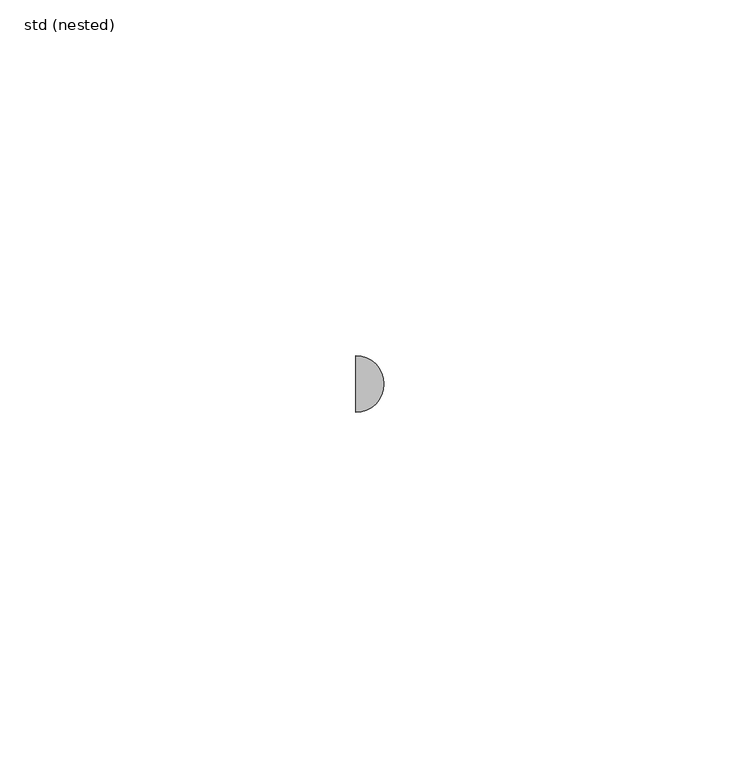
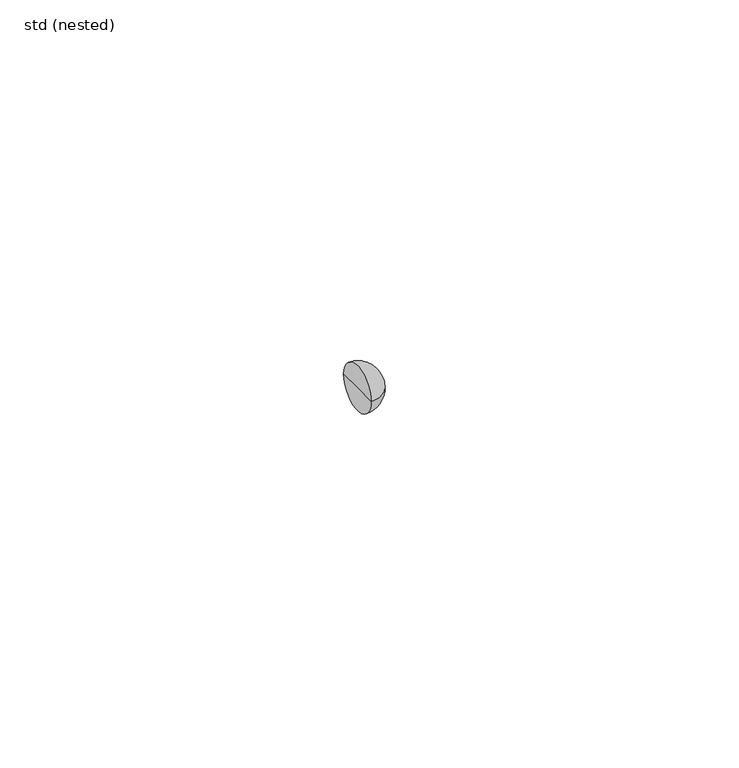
"""IFC4 building model written with IfcOpenShell, lengths in millimetres: pipe fitting geometry, ZZZ_do not use_PIF_ST_UN_ACO pipe multireducer_ACO : std (nested)."""

import ifcopenshell
import ifcopenshell.guid

model = None  # the IFC model being written
_history = None  # IfcOwnerHistory: only IFC2X3 demands one
_inside = {}  # id of a spatial element -> (the spatial element, [elements in it])
_under = {}  # id of a project, library or spatial element -> (it, [spatial elements below it])
_declared = {}  # id of a project -> (the project, [libraries it declares])
_typed = {}  # id of a type object -> (the type object, [elements of that type])
_made_of = {}  # id of a material, layer set ... -> (it, [elements and type objects made of it])


def new_model(schema):
    """Start an empty IFC model of exactly this schema.

    Asked for "IFC4X3", IfcOpenShell would pick the latest addendum, in which some entities
    have other attributes; the version numbers below select the first issue.
    IFC2X3 requires an IfcOwnerHistory on every rooted entity: one is made here for all.
    """
    global model, _history
    if schema == "IFC4X3":
        model = ifcopenshell.file(schema_version=(4, 3, 0, 0))
    else:
        model = ifcopenshell.file(schema=schema)
    _inside.clear()
    _under.clear()
    _declared.clear()
    _typed.clear()
    _made_of.clear()
    _history = None
    if model.schema == "IFC2X3":
        org = make("IfcOrganization", Name="unknown")
        user = make(
            "IfcPersonAndOrganization",
            ThePerson=make("IfcPerson", FamilyName="unknown"),
            TheOrganization=org,
        )
        app = make(
            "IfcApplication",
            ApplicationDeveloper=org,
            Version="unknown",
            ApplicationFullName="unknown",
            ApplicationIdentifier="unknown",
        )
        _history = make(
            "IfcOwnerHistory",
            OwningUser=user,
            OwningApplication=app,
            ChangeAction="ADDED",
            CreationDate=0,
        )
    return model


def make(cls, **values):
    """One entity of the class cls with the attributes given. An attribute that is None is left unset."""
    return model.create_entity(
        cls, **{name: value for name, value in values.items() if value is not None}
    )


def rooted(cls, **values):
    """An entity with a GlobalId (a new one), such as an element, a storey or a relation."""
    return make(cls, GlobalId=ifcopenshell.guid.new(), OwnerHistory=_history, **values)


def si_unit(unit_type, name, prefix=None):
    """IfcSIUnit, for example si_unit("LENGTHUNIT", "METRE", prefix="MILLI")."""
    return make("IfcSIUnit", UnitType=unit_type, Prefix=prefix, Name=name)


def assignment(units):
    """IfcUnitAssignment: the units of a project."""
    return None if units is None else make("IfcUnitAssignment", Units=units)


def point(xyz):
    """IfcCartesianPoint."""
    return None if xyz is None else make("IfcCartesianPoint", Coordinates=xyz)


def direction(xyz):
    """IfcDirection."""
    return None if xyz is None else make("IfcDirection", DirectionRatios=xyz)


def frame(location, z_axis=None, x_axis=None):
    """IfcAxis2Placement3D, a coordinate frame: its origin and axes. An axis left out is left unset."""
    return make(
        "IfcAxis2Placement3D",
        Location=point(location),
        Axis=direction(z_axis),
        RefDirection=direction(x_axis),
    )


def origin():
    """The frame at (0, 0, 0) with its axes left unset."""
    return frame((0.0, 0.0, 0.0))


def place(relative_to, where):
    """IfcLocalPlacement: puts the frame where relative to a parent placement (None: the world)."""
    return make(
        "IfcLocalPlacement", PlacementRelTo=relative_to, RelativePlacement=where
    )


def context(
    kind, dimensions, precision=None, world=None, true_north=None, identifier=None
):
    """IfcGeometricRepresentationContext, for example the 3D "Model" context."""
    return make(
        "IfcGeometricRepresentationContext",
        ContextIdentifier=identifier,
        ContextType=kind,
        CoordinateSpaceDimension=dimensions,
        Precision=precision,
        WorldCoordinateSystem=world,
        TrueNorth=true_north,
    )


def project(units=None, contexts=None):
    """IfcProject with its units and contexts."""
    return rooted(
        "IfcProject",
        Name="project",
        RepresentationContexts=contexts,
        UnitsInContext=assignment(units),
    )


def spatial(cls, under=None, at=None, **own):
    """A site, building, storey or space (cls), placed at a placement, below another one or the project."""
    s = rooted(cls, ObjectPlacement=at, **own)
    if under is not None:
        _under.setdefault(under.id(), (under, []))[1].append(s)
    return s


def circle_curve(where, radius):
    """IfcCircle in the frame where."""
    return make("IfcCircle", Position=where, Radius=radius)


def ellipse_curve(where, semi_axis1, semi_axis2):
    """IfcEllipse in the frame where."""
    return make(
        "IfcEllipse", Position=where, SemiAxis1=semi_axis1, SemiAxis2=semi_axis2
    )


def trimmed(basis, trim1, trim2, sense, master):
    """IfcTrimmedCurve: the piece of a basis curve between two trims."""
    return make(
        "IfcTrimmedCurve",
        BasisCurve=basis,
        Trim1=trim1,
        Trim2=trim2,
        SenseAgreement=sense,
        MasterRepresentation=master,
    )


def shape(context_of_items, identifier, shape_type, items):
    """IfcShapeRepresentation: the items that make up one representation, for example the "Body"."""
    return make(
        "IfcShapeRepresentation",
        ContextOfItems=context_of_items,
        RepresentationIdentifier=identifier,
        RepresentationType=shape_type,
        Items=items,
    )


def source(mapping_origin, context_of_items, identifier, shape_type, items):
    """IfcRepresentationMap: a shape defined once, which mapped items show again and again."""
    return make(
        "IfcRepresentationMap",
        MappingOrigin=mapping_origin,
        MappedRepresentation=shape(context_of_items, identifier, shape_type, items),
    )


def transform(
    local_origin,
    x_axis=None,
    y_axis=None,
    z_axis=None,
    scale=None,
    scale2=None,
    scale3=None,
    uniform=True,
):
    """IfcCartesianTransformationOperator3D, or its non-uniform kind. x_axis, y_axis, z_axis: its Axis1, 2, 3."""
    if uniform:
        return make(
            "IfcCartesianTransformationOperator3D",
            Axis1=direction(x_axis),
            Axis2=direction(y_axis),
            LocalOrigin=point(local_origin),
            Scale=scale,
            Axis3=direction(z_axis),
        )
    return make(
        "IfcCartesianTransformationOperator3DnonUniform",
        Axis1=direction(x_axis),
        Axis2=direction(y_axis),
        LocalOrigin=point(local_origin),
        Scale=scale,
        Axis3=direction(z_axis),
        Scale2=scale2,
        Scale3=scale3,
    )


def mapped(mapping_source, mapping_target):
    """IfcMappedItem: shows the shape of a source again, moved by a transform."""
    return make(
        "IfcMappedItem", MappingSource=mapping_source, MappingTarget=mapping_target
    )


def made_of(thing, what):
    """Note that an element or type object is made of a material, layer set ...; save() writes the relation."""
    if what is not None:
        _made_of.setdefault(what.id(), (what, []))[1].append(thing)
    return thing


def element(
    cls,
    number,
    at=None,
    inside=None,
    cuts=None,
    type_object=None,
    material=None,
    context=None,
    identifier="Body",
    shape_type=None,
    held_by="IfcProductDefinitionShape",
    body=None,
    shapes=None,
    **own,
):
    """One element of the class cls, such as IfcWall. Its Tag is "e" and its number.

    at: its placement. inside: the storey or other place that contains it. cuts: it is an
    opening in that element (IfcRelVoidsElement). A single representation is given by context,
    identifier, shape_type and body (its items); several are given by shapes. held_by: the class
    of the entity that holds the representations. save() writes the other relations.
    """
    e = rooted(cls, Tag="e%d" % number, ObjectPlacement=at, **own)
    if body is not None:
        shapes = [shape(context, identifier, shape_type, body)]
    if shapes is not None:
        e.Representation = make(held_by, Representations=shapes)
    if inside is not None:
        _inside.setdefault(inside.id(), (inside, []))[1].append(e)
    if cuts is not None:
        rooted(
            "IfcRelVoidsElement", RelatingBuildingElement=cuts, RelatedOpeningElement=e
        )
    if type_object is not None:
        _typed.setdefault(type_object.id(), (type_object, []))[1].append(e)
    return made_of(e, material)


def aggregate(whole, parts):
    """IfcRelAggregates: a whole, such as a stair, and the parts it consists of."""
    return rooted("IfcRelAggregates", RelatingObject=whole, RelatedObjects=parts)


def save(model, path):
    """Write the relations noted so far, then the file.

    IfcRelAggregates (storeys below a building ...), IfcRelContainedInSpatialStructure (elements
    in a storey), IfcRelDefinesByType, IfcRelAssociatesMaterial and IfcRelDeclares: one each for
    every whole, place, type object, material and project.
    """
    for whole, parts in _under.values():
        aggregate(whole, parts)
    for where, things in _inside.values():
        rooted(
            "IfcRelContainedInSpatialStructure",
            RelatedElements=things,
            RelatingStructure=where,
        )
    for kind, things in _typed.values():
        rooted("IfcRelDefinesByType", RelatedObjects=things, RelatingType=kind)
    for what, things in _made_of.values():
        rooted("IfcRelAssociatesMaterial", RelatedObjects=things, RelatingMaterial=what)
    for by, libraries in _declared.values():
        rooted("IfcRelDeclares", RelatingContext=by, RelatedDefinitions=libraries)
    model.write(path)


def plane_surface(at):
    """IfcPlane: the flat surface through the origin of the frame at, square to its z axis."""
    return make("IfcPlane", Position=at)


def revolved_surface(curve, axis_point, axis_direction):
    """IfcSurfaceOfRevolution: the curve turned about the line through axis_point along axis_direction."""
    return make(
        "IfcSurfaceOfRevolution",
        SweptCurve=make("IfcArbitraryOpenProfileDef", ProfileType="CURVE", Curve=curve),
        AxisPosition=make("IfcAxis1Placement", Location=point(axis_point), Axis=direction(axis_direction)),
    )


def advanced_brep(points, edges, surfaces, faces):
    """IfcAdvancedBrep: a solid bounded by faces that lie on surfaces and meet in shared edges.

    An edge is (start, end): straight between two places in points (the first is 0);
    or (start, end, curve); or (start, end, curve, False) where it runs against its curve.
    A face is (place in surfaces, loops), or (place, loops, False) where it looks against
    its surface's normal. A loop lists edges by number (the first is 1), with a minus sign
    where the edge is run from its end to its start. The first loop is the outer one.
    """
    corners = [point(p) for p in points]
    vertices = [make("IfcVertexPoint", VertexGeometry=c) for c in corners]
    made = []
    for start, end, *more in edges:
        made.append(
            make(
                "IfcEdgeCurve",
                EdgeStart=vertices[start],
                EdgeEnd=vertices[end],
                EdgeGeometry=more[0] if more else make("IfcPolyline", Points=[corners[start], corners[end]]),
                SameSense=more[1] if len(more) > 1 else True,
            )
        )
    hull = []
    for where, loops, *sense in faces:
        bounds = []
        for j, loop in enumerate(loops):
            ring = [make("IfcOrientedEdge", EdgeElement=made[abs(k) - 1], Orientation=k > 0) for k in loop]
            bounds.append(
                make(
                    "IfcFaceOuterBound" if j == 0 else "IfcFaceBound",
                    Bound=make("IfcEdgeLoop", EdgeList=ring),
                    Orientation=True,
                )
            )
        hull.append(make("IfcAdvancedFace", Bounds=bounds, FaceSurface=surfaces[where], SameSense=sense[0] if sense else True))
    return make("IfcAdvancedBrep", Outer=make("IfcClosedShell", CfsFaces=hull))


def std_nested_c800a1cb(model_context):
    return source(origin(), model_context, "Body", "AdvancedBrep", [
        advanced_brep(
        [(-55.0, 0.0, 0.0), (-55.0, 4.0, 0.0), (-55.0, -4.0, 0.0), (-51.0, 0.0, 0.0)],
        [
            (0, 1),
            (1, 2, circle_curve(frame((-55.0, 0.0, 0.0), z_axis=(-1.0, 0.0, 0.0), x_axis=(0.0, 1.0, 0.0)), 4.0)),
            (2, 0),
            (2, 1, circle_curve(frame((-55.0, 0.0, 0.0), z_axis=(-1.0, 0.0, 0.0), x_axis=(0.0, 1.0, 0.0)), 4.0)),
            (1, 3, circle_curve(frame((-55.0, 0.0, 0.0), z_axis=(0.0, 0.0, -1.0), x_axis=(1.0, 0.0, 0.0)), 4.0)),
            (3, 2, circle_curve(frame((-55.0, 0.0, 0.0), z_axis=(0.0, 0.0, -1.0), x_axis=(1.0, 0.0, 0.0)), 4.0)),
        ],
        [
            plane_surface(frame((-55.0, 0.0, 0.0), z_axis=(-1.0, 0.0, 0.0), x_axis=(0.0, 1.0, 0.0))),
            revolved_surface(trimmed(ellipse_curve(frame((-55.0, 0.0, 0.0), z_axis=(0.0, 0.0, 1.0), x_axis=(1.0, 0.0, 0.0)), 4.0, 4.0), [point((-51.0, 0.0, 0.0))], [point((-55.0, 4.0, 0.0))], True, "CARTESIAN"), (-68.6508039, 0.0, 0.0), (-1.0, 0.0, 0.0)),
        ],
        [
            (0, [[1, 2, 3]]),
            (0, [[-3, 4, -1]]),
            (1, [[-2, 5, 6]]),
            (1, [[-4, -6, -5]]),
        ],
    ),
    ])


if __name__ == "__main__":
    model = new_model("IFC4")
    model_context = context("Model", 3, world=origin())
    ifc_project = project(units=[si_unit("LENGTHUNIT", "METRE", prefix="MILLI")], contexts=[model_context])
    site = spatial("IfcSite", under=ifc_project)
    building = spatial("IfcBuilding", under=site)
    placement = place(None, origin())
    std_nested_shape = std_nested_c800a1cb(model_context)
    element("IfcPipeFitting", 1, ObjectType="ZZZ_do not use_PIF_ST_UN_ACO pipe multireducer_ACO : std (nested)", at=placement, inside=building, context=model_context, shape_type="MappedRepresentation", body=[
        mapped(std_nested_shape, transform((0.0, 0.0, 0.0), x_axis=(1.0, 0.0, 0.0), y_axis=(0.0, 1.0, 0.0), z_axis=(0.0, 0.0, 1.0))),
    ])
    save(model, "model.ifc")
